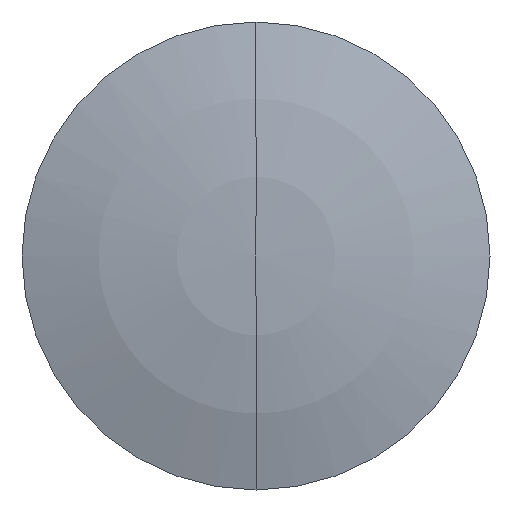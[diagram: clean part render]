
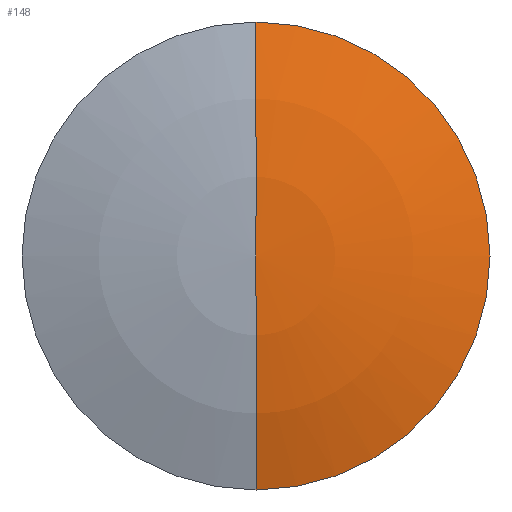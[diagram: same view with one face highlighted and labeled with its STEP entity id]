
A CAD part, front view. The second image highlights one B-rep face of the part: STEP entity #148.
In plain terms, the highlighted toroidal (fillet/blend) face has major radius 1.197 mm and minor radius 41.638 mm.
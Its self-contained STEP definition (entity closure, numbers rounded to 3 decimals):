
#90 = EDGE_CURVE( '', #158, #140, #201, .T. );
#102 = EDGE_CURVE( '', #140, #116, #215, .T. );
#106 = EDGE_CURVE( '', #116, #118, #219, .T. );
#116 = VERTEX_POINT( '', #230 );
#118 = VERTEX_POINT( '', #232 );
#126 = EDGE_CURVE( '', #118, #158, #241, .T. );
#140 = VERTEX_POINT( '', #256 );
#148 = ADVANCED_FACE( '', ( #264 ), #265, .T. );
#158 = VERTEX_POINT( '', #277 );
#201 = CIRCLE( '', #315, 41.638 );
#215 = CIRCLE( '', #334, 41.638 );
#219 = CIRCLE( '', #339, 14. );
#230 = CARTESIAN_POINT( '', ( 0., -22., 14. ) );
#232 = CARTESIAN_POINT( '', ( 14., -22., 0. ) );
#241 = CIRCLE( '', #365, 14. );
#256 = CARTESIAN_POINT( '', ( 0., -24., 0. ) );
#264 = FACE_OUTER_BOUND( '', #394, .T. );
#265 = TOROIDAL_SURFACE( '', #395, 1.197, 41.638 );
#277 = CARTESIAN_POINT( '', ( 0., -22., -14. ) );
#315 = AXIS2_PLACEMENT_3D( '', #450, #451, #452 );
#334 = AXIS2_PLACEMENT_3D( '', #479, #480, #481 );
#339 = AXIS2_PLACEMENT_3D( '', #482, #483, #484 );
#365 = AXIS2_PLACEMENT_3D( '', #503, #504, #505 );
#394 = EDGE_LOOP( '', ( #528, #529, #530, #531 ) );
#395 = AXIS2_PLACEMENT_3D( '', #532, #533, #534 );
#450 = CARTESIAN_POINT( '', ( 0., 17.62, -1.197 ) );
#451 = DIRECTION( '', ( -1., 0., 0. ) );
#452 = DIRECTION( '', ( 0., 0., -1. ) );
#479 = CARTESIAN_POINT( '', ( 0., 17.62, 1.197 ) );
#480 = DIRECTION( '', ( -1., 0., 0. ) );
#481 = DIRECTION( '', ( 0., 0., 1. ) );
#482 = CARTESIAN_POINT( '', ( 0., -22., 0. ) );
#483 = DIRECTION( '', ( 0., 1., 0. ) );
#484 = DIRECTION( '', ( 1., 0., 0. ) );
#503 = CARTESIAN_POINT( '', ( 0., -22., 0. ) );
#504 = DIRECTION( '', ( 0., 1., 0. ) );
#505 = DIRECTION( '', ( 1., 0., 0. ) );
#528 = ORIENTED_EDGE( '', *, *, #90, .F. );
#529 = ORIENTED_EDGE( '', *, *, #126, .F. );
#530 = ORIENTED_EDGE( '', *, *, #106, .F. );
#531 = ORIENTED_EDGE( '', *, *, #102, .F. );
#532 = CARTESIAN_POINT( '', ( 0., 17.62, 0. ) );
#533 = DIRECTION( '', ( 0., 1., 0. ) );
#534 = DIRECTION( '', ( 0., 0., 1. ) );
